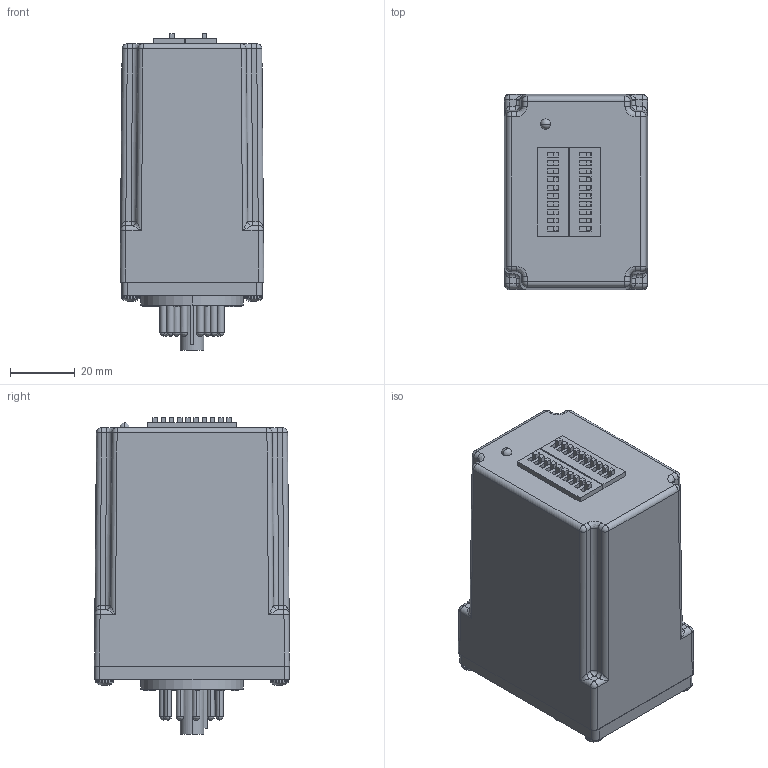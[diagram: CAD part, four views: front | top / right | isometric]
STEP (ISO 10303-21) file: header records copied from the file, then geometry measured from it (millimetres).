
FILE_DESCRIPTION (( 'STEP AP203' ), '1' );
FILE_NAME ('TD-8 Dual.step', '2014-09-05T02:54:26', ( 'JLohr' ), ( '' ), 'SwSTEP 2.0', 'SolidWorks 2007', '' );
FILE_SCHEMA (( 'CONFIG_CONTROL_DESIGN' ));
Length unit declared in the file: inch
Products named in the file (1): TD-8 Dual
Bounding box: 44.45 x 60.33 x 97.87 mm (x, y, z)
Volume: 201602.7 mm3; surface area: 32046.5 mm2
Topology: 41 solids, 41 shells, 949 faces, 2401 edges, 1542 vertices
Faces by surface type: plane 467, cylinder 274, bspline 154, cone 40, sphere 14
Entity records: 40470 total; most frequent: CARTESIAN_POINT 19547, ORIENTED_EDGE 4718, DIRECTION 3615, EDGE_CURVE 2359, VERTEX_POINT 1540, LINE 1319, VECTOR 1319, AXIS2_PLACEMENT_3D 1148
